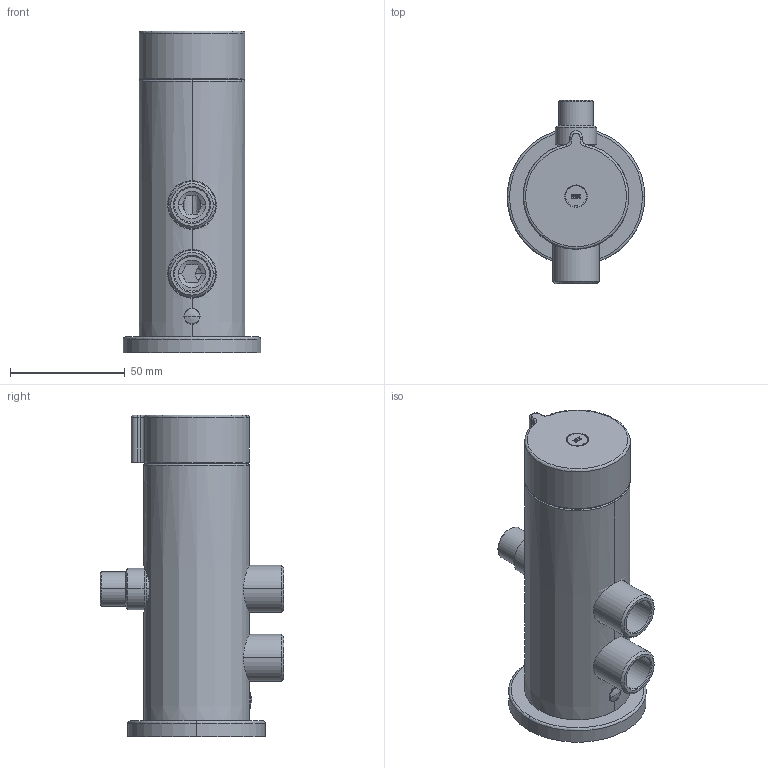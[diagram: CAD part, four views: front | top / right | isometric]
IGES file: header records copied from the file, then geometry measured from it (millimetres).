
Start section:  PTC IGES file: 508511.igs
Global section: file name: 508511.igs; native system: Creo Elements/Pro by Parametric Technology Corporation; preprocessor: 2011080; author: lff; organization: Unknown; date: 20120508.145443; units: millimetre
Bounding box: 60 x 80 x 140.3 mm (x, y, z)
Volume: 164457.4 mm3; surface area: 55200.6 mm2
Topology: 2 solids, 2 shells, 524 faces, 1311 edges, 816 vertices
Faces by surface type: revolution 323, bspline 201
